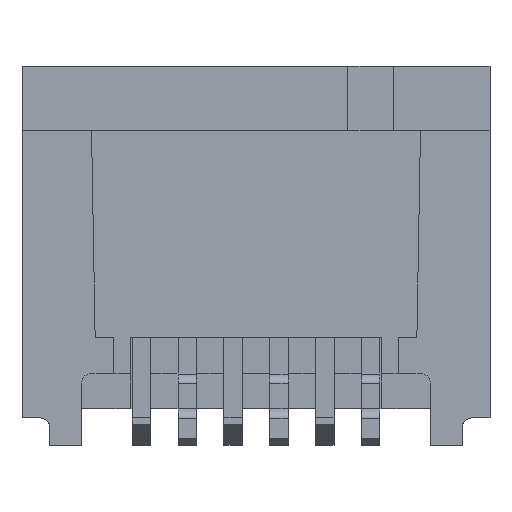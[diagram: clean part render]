
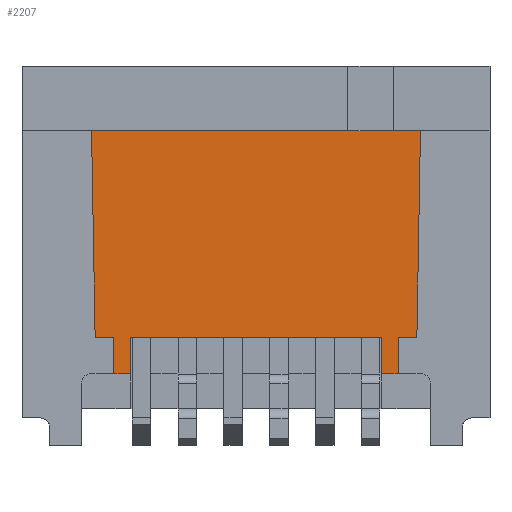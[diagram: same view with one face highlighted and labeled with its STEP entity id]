
A CAD part, front view. The second image highlights one B-rep face of the part: STEP entity #2207.
In plain terms, the highlighted planar face has unit normal (0, -1, 0).
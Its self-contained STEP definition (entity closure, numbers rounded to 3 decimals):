
#2112=AXIS2_PLACEMENT_3D('Plane Axis2P3D',#2109,#2110,#2111) ;
#854=CARTESIAN_POINT('Vertex',(4.208,-2.48,3.43)) ;
#857=CARTESIAN_POINT('Line Origine',(4.329,-2.48,3.43)) ;
#861=CARTESIAN_POINT('Vertex',(4.45,-2.48,3.43)) ;
#882=CARTESIAN_POINT('Vertex',(7.55,-2.48,3.43)) ;
#885=CARTESIAN_POINT('Line Origine',(7.671,-2.48,3.43)) ;
#889=CARTESIAN_POINT('Vertex',(7.792,-2.48,3.43)) ;
#1582=CARTESIAN_POINT('Vertex',(7.55,-2.48,1.18)) ;
#1589=CARTESIAN_POINT('Vertex',(7.753,-2.48,1.18)) ;
#1592=CARTESIAN_POINT('Line Origine',(7.652,-2.48,1.18)) ;
#1604=CARTESIAN_POINT('Line Origine',(7.773,-2.48,2.305)) ;
#1771=CARTESIAN_POINT('Vertex',(7.55,-2.48,0.78)) ;
#1774=CARTESIAN_POINT('Line Origine',(7.457,-2.48,0.78)) ;
#1778=CARTESIAN_POINT('Vertex',(7.365,-2.48,0.78)) ;
#1807=CARTESIAN_POINT('Line Origine',(7.55,-2.48,0.98)) ;
#2094=CARTESIAN_POINT('Vertex',(4.247,-2.48,1.18)) ;
#2097=CARTESIAN_POINT('Line Origine',(4.227,-2.48,2.305)) ;
#2109=CARTESIAN_POINT('Axis2P3D Location',(-8.55,-2.48,0.)) ;
#2114=CARTESIAN_POINT('Line Origine',(6.,-2.48,1.18)) ;
#2118=CARTESIAN_POINT('Vertex',(7.36,-2.48,1.18)) ;
#2120=CARTESIAN_POINT('Vertex',(4.64,-2.48,1.18)) ;
#2123=CARTESIAN_POINT('Line Origine',(7.362,-2.48,1.18)) ;
#2127=CARTESIAN_POINT('Vertex',(7.365,-2.48,1.18)) ;
#2130=CARTESIAN_POINT('Line Origine',(7.365,-2.48,0.98)) ;
#2135=CARTESIAN_POINT('Line Origine',(7.55,-2.48,3.63)) ;
#2139=CARTESIAN_POINT('Vertex',(7.55,-2.48,3.83)) ;
#2142=CARTESIAN_POINT('Line Origine',(6.,-2.48,3.83)) ;
#2146=CARTESIAN_POINT('Vertex',(4.45,-2.48,3.83)) ;
#2149=CARTESIAN_POINT('Line Origine',(4.45,-2.48,3.63)) ;
#2154=CARTESIAN_POINT('Line Origine',(4.348,-2.48,1.18)) ;
#2158=CARTESIAN_POINT('Vertex',(4.45,-2.48,1.18)) ;
#2161=CARTESIAN_POINT('Line Origine',(4.45,-2.48,0.98)) ;
#2165=CARTESIAN_POINT('Vertex',(4.45,-2.48,0.78)) ;
#2168=CARTESIAN_POINT('Line Origine',(4.542,-2.48,0.78)) ;
#2172=CARTESIAN_POINT('Vertex',(4.635,-2.48,0.78)) ;
#2175=CARTESIAN_POINT('Line Origine',(4.635,-2.48,0.98)) ;
#2179=CARTESIAN_POINT('Vertex',(4.635,-2.48,1.18)) ;
#2182=CARTESIAN_POINT('Line Origine',(4.637,-2.48,1.18)) ;
#858=DIRECTION('Vector Direction',(-1.,0.,0.)) ;
#886=DIRECTION('Vector Direction',(-1.,0.,0.)) ;
#1593=DIRECTION('Vector Direction',(-1.,0.,0.)) ;
#1605=DIRECTION('Vector Direction',(0.017,0.,1.)) ;
#1775=DIRECTION('Vector Direction',(1.,0.,0.)) ;
#1808=DIRECTION('Vector Direction',(0.,0.,-1.)) ;
#2098=DIRECTION('Vector Direction',(-0.017,0.,1.)) ;
#2110=DIRECTION('Axis2P3D Direction',(0.,1.,0.)) ;
#2111=DIRECTION('Axis2P3D XDirection',(0.,0.,1.)) ;
#2115=DIRECTION('Vector Direction',(-1.,0.,0.)) ;
#2124=DIRECTION('Vector Direction',(1.,0.,0.)) ;
#2131=DIRECTION('Vector Direction',(0.,0.,-1.)) ;
#2136=DIRECTION('Vector Direction',(0.,0.,-1.)) ;
#2143=DIRECTION('Vector Direction',(-1.,0.,0.)) ;
#2150=DIRECTION('Vector Direction',(0.,0.,-1.)) ;
#2155=DIRECTION('Vector Direction',(-1.,0.,0.)) ;
#2162=DIRECTION('Vector Direction',(0.,0.,-1.)) ;
#2169=DIRECTION('Vector Direction',(1.,0.,0.)) ;
#2176=DIRECTION('Vector Direction',(0.,0.,-1.)) ;
#2183=DIRECTION('Vector Direction',(1.,0.,0.)) ;
#859=VECTOR('Line Direction',#858,1.) ;
#887=VECTOR('Line Direction',#886,1.) ;
#1594=VECTOR('Line Direction',#1593,1.) ;
#1606=VECTOR('Line Direction',#1605,1.) ;
#1776=VECTOR('Line Direction',#1775,1.) ;
#1809=VECTOR('Line Direction',#1808,1.) ;
#2099=VECTOR('Line Direction',#2098,1.) ;
#2116=VECTOR('Line Direction',#2115,1.) ;
#2125=VECTOR('Line Direction',#2124,1.) ;
#2132=VECTOR('Line Direction',#2131,1.) ;
#2137=VECTOR('Line Direction',#2136,1.) ;
#2144=VECTOR('Line Direction',#2143,1.) ;
#2151=VECTOR('Line Direction',#2150,1.) ;
#2156=VECTOR('Line Direction',#2155,1.) ;
#2163=VECTOR('Line Direction',#2162,1.) ;
#2170=VECTOR('Line Direction',#2169,1.) ;
#2177=VECTOR('Line Direction',#2176,1.) ;
#2184=VECTOR('Line Direction',#2183,1.) ;
#2188=ORIENTED_EDGE('',*,*,#2122,.F.) ;
#2189=ORIENTED_EDGE('',*,*,#2129,.F.) ;
#2190=ORIENTED_EDGE('',*,*,#2134,.T.) ;
#2191=ORIENTED_EDGE('',*,*,#1780,.F.) ;
#2192=ORIENTED_EDGE('',*,*,#1811,.F.) ;
#2193=ORIENTED_EDGE('',*,*,#1596,.T.) ;
#2194=ORIENTED_EDGE('',*,*,#1608,.T.) ;
#2195=ORIENTED_EDGE('',*,*,#891,.F.) ;
#2196=ORIENTED_EDGE('',*,*,#2141,.T.) ;
#2197=ORIENTED_EDGE('',*,*,#2148,.T.) ;
#2198=ORIENTED_EDGE('',*,*,#2153,.F.) ;
#2199=ORIENTED_EDGE('',*,*,#863,.T.) ;
#2200=ORIENTED_EDGE('',*,*,#2101,.F.) ;
#2201=ORIENTED_EDGE('',*,*,#2160,.F.) ;
#2202=ORIENTED_EDGE('',*,*,#2167,.T.) ;
#2203=ORIENTED_EDGE('',*,*,#2174,.T.) ;
#2204=ORIENTED_EDGE('',*,*,#2181,.F.) ;
#2205=ORIENTED_EDGE('',*,*,#2186,.T.) ;
#2207=ADVANCED_FACE('INSULATOR-(BJF 6244603)',(#2206),#2113,.F.) ;
#863=EDGE_CURVE('',#862,#855,#860,.T.) ;
#891=EDGE_CURVE('',#883,#890,#888,.F.) ;
#1596=EDGE_CURVE('',#1583,#1590,#1595,.F.) ;
#1608=EDGE_CURVE('',#1590,#890,#1607,.T.) ;
#1780=EDGE_CURVE('',#1772,#1779,#1777,.F.) ;
#1811=EDGE_CURVE('',#1583,#1772,#1810,.T.) ;
#2101=EDGE_CURVE('',#2095,#855,#2100,.T.) ;
#2122=EDGE_CURVE('',#2119,#2121,#2117,.T.) ;
#2129=EDGE_CURVE('',#2128,#2119,#2126,.F.) ;
#2134=EDGE_CURVE('',#2128,#1779,#2133,.T.) ;
#2141=EDGE_CURVE('',#883,#2140,#2138,.F.) ;
#2148=EDGE_CURVE('',#2140,#2147,#2145,.T.) ;
#2153=EDGE_CURVE('',#862,#2147,#2152,.F.) ;
#2160=EDGE_CURVE('',#2159,#2095,#2157,.T.) ;
#2167=EDGE_CURVE('',#2159,#2166,#2164,.T.) ;
#2174=EDGE_CURVE('',#2166,#2173,#2171,.T.) ;
#2181=EDGE_CURVE('',#2180,#2173,#2178,.T.) ;
#2186=EDGE_CURVE('',#2180,#2121,#2185,.T.) ;
#2187=EDGE_LOOP('',(#2188,#2189,#2190,#2191,#2192,#2193,#2194,#2195,#2196,#2197,#2198,#2199,#2200,#2201,#2202,#2203,#2204,#2205)) ;
#2206=FACE_OUTER_BOUND('',#2187,.T.) ;
#860=LINE('Line',#857,#859) ;
#888=LINE('Line',#885,#887) ;
#1595=LINE('Line',#1592,#1594) ;
#1607=LINE('Line',#1604,#1606) ;
#1777=LINE('Line',#1774,#1776) ;
#1810=LINE('Line',#1807,#1809) ;
#2100=LINE('Line',#2097,#2099) ;
#2117=LINE('Line',#2114,#2116) ;
#2126=LINE('Line',#2123,#2125) ;
#2133=LINE('Line',#2130,#2132) ;
#2138=LINE('Line',#2135,#2137) ;
#2145=LINE('Line',#2142,#2144) ;
#2152=LINE('Line',#2149,#2151) ;
#2157=LINE('Line',#2154,#2156) ;
#2164=LINE('Line',#2161,#2163) ;
#2171=LINE('Line',#2168,#2170) ;
#2178=LINE('Line',#2175,#2177) ;
#2185=LINE('Line',#2182,#2184) ;
#2113=PLANE('Plane',#2112) ;
#855=VERTEX_POINT('',#854) ;
#862=VERTEX_POINT('',#861) ;
#883=VERTEX_POINT('',#882) ;
#890=VERTEX_POINT('',#889) ;
#1583=VERTEX_POINT('',#1582) ;
#1590=VERTEX_POINT('',#1589) ;
#1772=VERTEX_POINT('',#1771) ;
#1779=VERTEX_POINT('',#1778) ;
#2095=VERTEX_POINT('',#2094) ;
#2119=VERTEX_POINT('',#2118) ;
#2121=VERTEX_POINT('',#2120) ;
#2128=VERTEX_POINT('',#2127) ;
#2140=VERTEX_POINT('',#2139) ;
#2147=VERTEX_POINT('',#2146) ;
#2159=VERTEX_POINT('',#2158) ;
#2166=VERTEX_POINT('',#2165) ;
#2173=VERTEX_POINT('',#2172) ;
#2180=VERTEX_POINT('',#2179) ;
